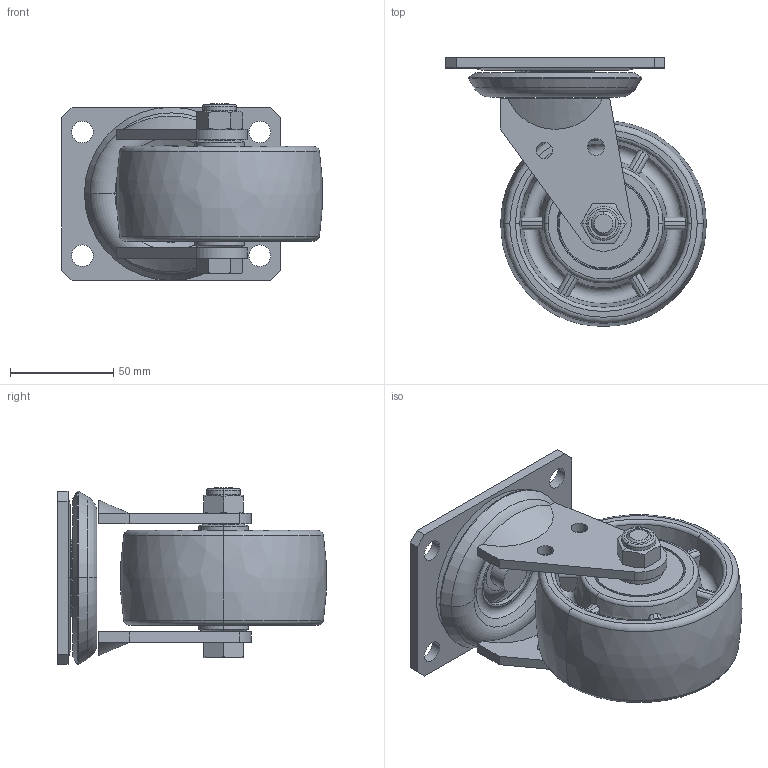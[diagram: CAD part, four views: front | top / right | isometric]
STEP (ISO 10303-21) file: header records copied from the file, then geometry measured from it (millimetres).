
FILE_DESCRIPTION((''),'2;1');
FILE_NAME('M72114-M724-16_ASM','2023-01-09T',('lenovo'),(''),'PRO/ENGINEER BY PARAMETRIC TECHNOLOGY CORPORATION, 2010280','PRO/ENGINEER BY PARAMETRIC TECHNOLOGY CORPORATION, 2010280','');
FILE_SCHEMA(('CONFIG_CONTROL_DESIGN'));
Length unit declared in the file: millimetre
Products named in the file (11): 720-01; 710C03A; 720-31; 724C11-1; 720-33; 7010-34; 724-816; 720-67; 720-54; 724-16_ASM; M72114-M724-16_ASM
Assembly tree (11 placements, depth 3):
  M72114-M724-16_ASM
    720-01
    710C03A
    720-31
    724C11-1
    720-33
    7010-34
    724-16_ASM
      724-816
      720-67  x2
      720-54
Bounding box: 126.32 x 130.22 x 85.8 mm (x, y, z)
Volume: 354537.7 mm3; surface area: 109909.3 mm2
Topology: 11 solids, 11 shells, 319 faces, 750 edges, 474 vertices
Faces by surface type: plane 107, cylinder 96, torus 56, cone 54, bspline 6
Entity records: 10527 total; most frequent: CARTESIAN_POINT 3298, DIRECTION 1492, ORIENTED_EDGE 1444, EDGE_CURVE 722, AXIS2_PLACEMENT_3D 635, VERTEX_POINT 456, EDGE_LOOP 356, CIRCLE 310
